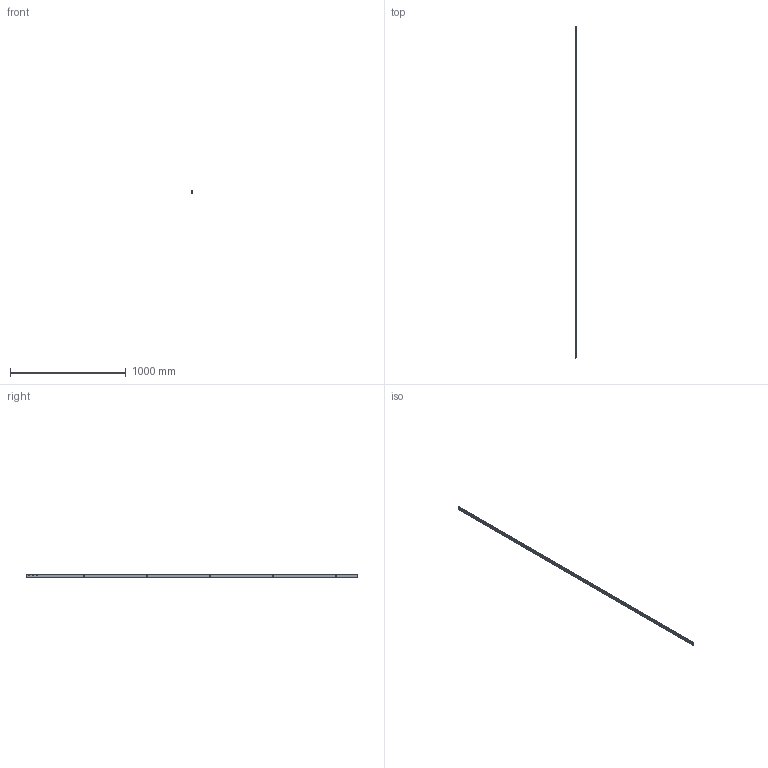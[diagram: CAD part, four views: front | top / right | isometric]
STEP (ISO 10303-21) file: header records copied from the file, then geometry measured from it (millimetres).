
FILE_DESCRIPTION (( 'STEP AP214' ), '1' );
FILE_NAME ('TPL-W-531-U 19July2024.STEP', '2024-12-05T00:24:12', ( '' ), ( '' ), 'SwSTEP 2.0', 'SolidWorks 2023', '' );
FILE_SCHEMA (( 'AUTOMOTIVE_DESIGN' ));
Length unit declared in the file: millimetre
Products named in the file (15): Copy of COV-112-C Cover C TPLGen2 Lock body^TPL-W-001 19July2024; Bolt.step; Copy of LKC-547 Spindle - simplified^Copy of TPGen2 handle non-keyed - simplified_TPL-W-001 19July2024_C - 15mm; Bottom twinpoint transmission rod wood system^TPL-W-001 19July2024_Standard Range 2891.7mm; Copy of TPLGen2 push rod - simplified^Copy of TPLGen2 lock body non-keyed assembly_TPL-W-001 19July2024_Female thread M10; Copy of Handle sub-assembly - simplified^Copy of TPGen2 handle non-keyed - simplified_TPL-W-001 19July2024; Copy of LKC-531-A Rod TPLGen2 machined bolt end^TPL-W-001 19July2024_LKC-531-A-M003; Copy of Adapter CnE - simplfied^TPL-W-001 19July2024_26mm backset; Copy of Escutcheon plate unkeyed 185mm - simplified^Copy of TPGen2 handle non-keyed - simplified_TPL-W-001 19July2024; TPL-W-531-U 19July2024; COV-112-B Cover B suit TPLGen2 standard range^TPL-W-001 19July2024_2870mm; COV-112-A Cover A suit TPLGen2 standard range^TPL-W-001 19July2024_2870mm; Copy of TPLGen2 lock body non-keyed^Copy of TPLGen2 lock body non-keyed assembly_TPL-W-001 19July2024; Copy of Adapter DnF - simplfied^TPL-W-001 19July2024_26mm backset
Assembly tree (3 placements, depth 2):
  Copy of COV-112-C Cover C TPLGen2 Lock body^TPL-W-001 19July2024
  Copy of LKC-547 Spindle - simplified^Copy of TPGen2 handle non-keyed - simplified_TPL-W-001 19July2024_C - 15mm
  Bottom twinpoint transmission rod wood system^TPL-W-001 19July2024_Standard Range 2891.7mm
  Copy of TPLGen2 push rod - simplified^Copy of TPLGen2 lock body non-keyed assembly_TPL-W-001 19July2024_Female thread M10
  Copy of Handle sub-assembly - simplified^Copy of TPGen2 handle non-keyed - simplified_TPL-W-001 19July2024
Bounding box: 10.8 x 2870 x 27 mm (x, y, z)
Volume: 469654.5 mm3; surface area: 386296.7 mm2
Topology: 3 solids, 3 shells, 158 faces, 490 edges, 324 vertices
Faces by surface type: plane 73, cylinder 61, cone 22, sphere 2
Entity records: 6265 total; most frequent: CARTESIAN_POINT 1664, ORIENTED_EDGE 974, DIRECTION 883, EDGE_CURVE 487, VERTEX_POINT 323, AXIS2_PLACEMENT_3D 318, LINE 247, VECTOR 247
